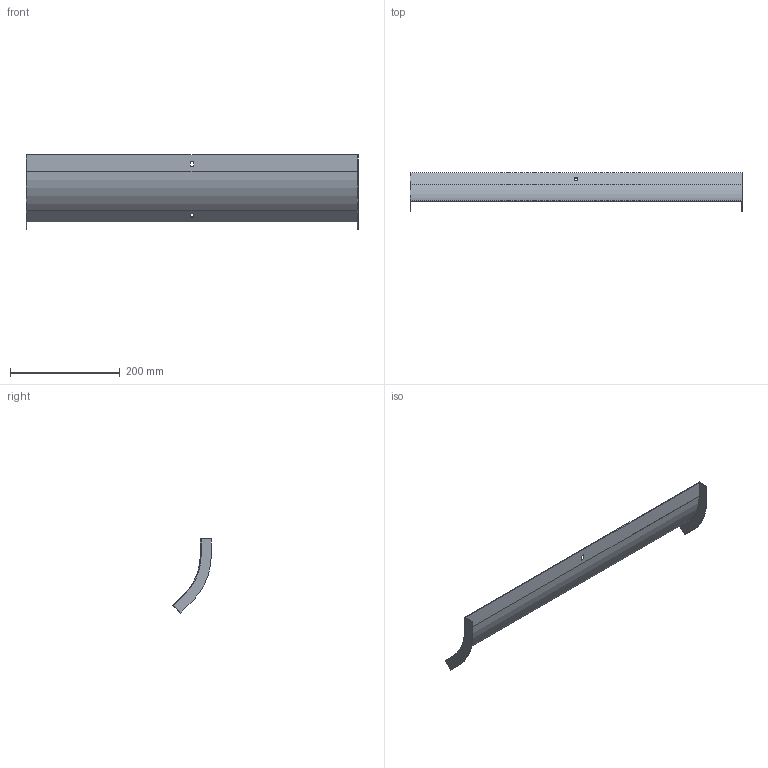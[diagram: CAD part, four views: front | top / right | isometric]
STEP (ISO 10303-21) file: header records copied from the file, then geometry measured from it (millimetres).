
FILE_DESCRIPTION (( 'STEP AP214' ), '1' );
FILE_NAME ('31G1P600.step', '2025-02-21T12:48:09', ( '' ), ( '' ), 'SwSTEP 2.0', 'SolidWorks 2023', '' );
FILE_SCHEMA (( 'AUTOMOTIVE_DESIGN' ));
Length unit declared in the file: millimetre
Products named in the file (1): 31G1P600
Bounding box: 604 x 70.06 x 135.01 mm (x, y, z)
Volume: 132900.1 mm3; surface area: 179673.5 mm2
Topology: 1 solids, 1 shells, 26 faces, 72 edges, 48 vertices
Faces by surface type: plane 22, cylinder 4
Entity records: 855 total; most frequent: CARTESIAN_POINT 147, ORIENTED_EDGE 144, DIRECTION 134, EDGE_CURVE 72, LINE 64, VECTOR 64, VERTEX_POINT 48, AXIS2_PLACEMENT_3D 35
